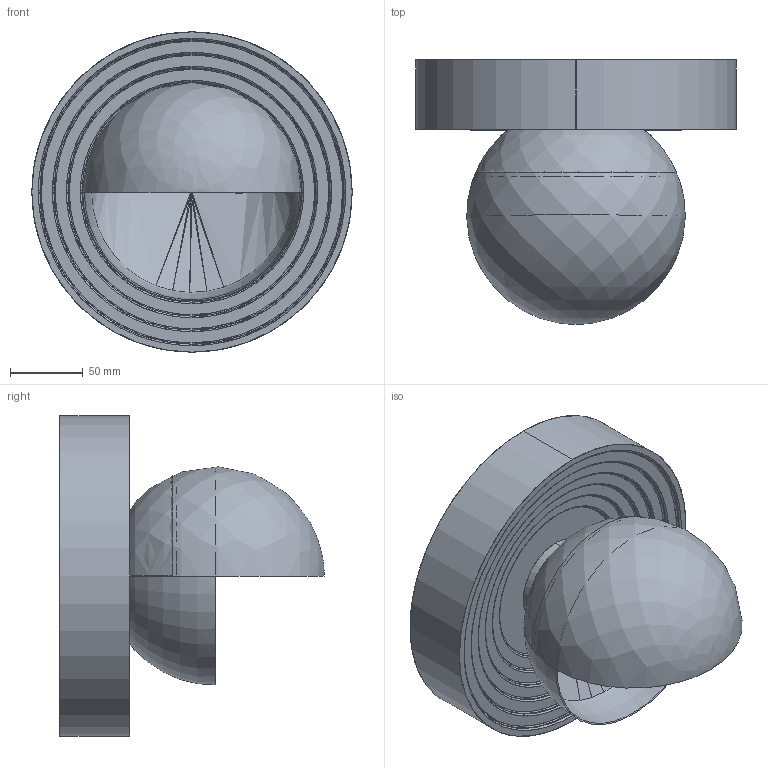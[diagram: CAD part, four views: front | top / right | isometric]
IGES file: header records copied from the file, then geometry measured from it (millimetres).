
Start section: SolidWorks IGES file using analytic representation for surfaces
Global section: file name: C:\Users\anna.bielnik\Desktop\ACE M\ACE M.IGS; native system: SolidWorks 2024; preprocessor: SolidWorks 2024; author: anna.bielnik; date: 250226.080204; units: millimetre
Bounding box: 220 x 181.64 x 220 mm (x, y, z)
Surface area: 258413 mm2 (no closed solid volume)
Topology: 0 solids, 0 shells, 63 faces, 1672 edges, 1671 vertices
Faces by surface type: bspline 39, revolution 24
